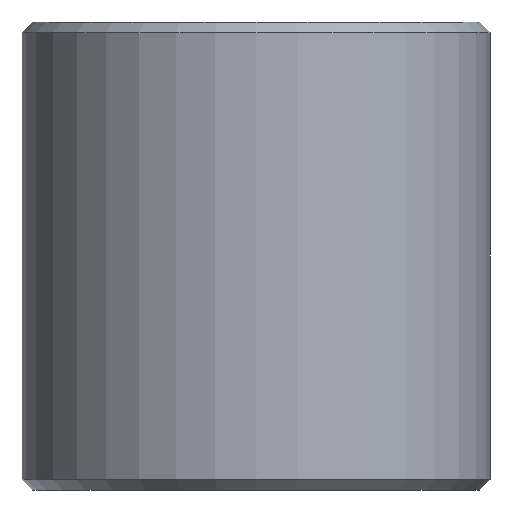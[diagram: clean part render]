
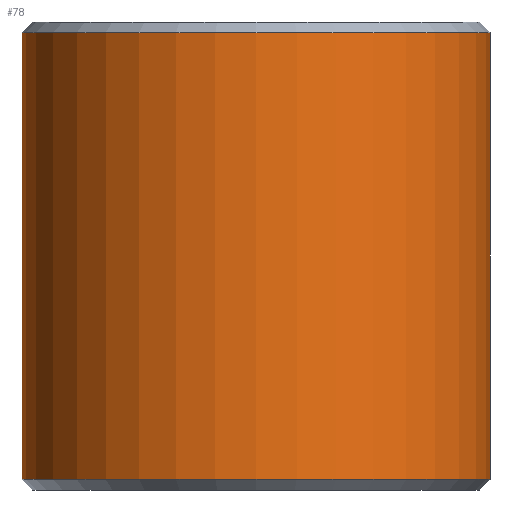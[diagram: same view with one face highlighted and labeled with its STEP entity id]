
A CAD part, front view. The second image highlights one B-rep face of the part: STEP entity #78.
In plain terms, the highlighted cylindrical face has radius 22 mm (diameter 44 mm), a full revolution.
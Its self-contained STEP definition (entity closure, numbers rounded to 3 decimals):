
#78=ADVANCED_FACE('',(#91,#92),#93,.T.);
#91=FACE_OUTER_BOUND('',#109,.T.);
#92=FACE_OUTER_BOUND('',#110,.T.);
#93=CYLINDRICAL_SURFACE('',#111,22.0);
#109=EDGE_LOOP('',(#133));
#110=EDGE_LOOP('',(#134));
#111=AXIS2_PLACEMENT_3D('',#135,#136,#137);
#133=ORIENTED_EDGE('',*,*,#152,.T.);
#134=ORIENTED_EDGE('',*,*,#153,.T.);
#135=CARTESIAN_POINT('',(0.0,0.0,22.0));
#136=DIRECTION('',(-0.0,-0.0,1.0));
#137=DIRECTION('',(-1.0,0.0,0.0));
#152=EDGE_CURVE('',#162,#162,#163,.F.);
#153=EDGE_CURVE('',#164,#164,#165,.T.);
#162=VERTEX_POINT('',#174);
#163=CIRCLE('',#175,22.0);
#164=VERTEX_POINT('',#176);
#165=CIRCLE('',#177,22.0);
#174=CARTESIAN_POINT('',(22.0,0.,21.0));
#175=AXIS2_PLACEMENT_3D('',#190,#191,#192);
#176=CARTESIAN_POINT('',(22.0,0.0,-21.0));
#177=AXIS2_PLACEMENT_3D('',#193,#194,#195);
#190=CARTESIAN_POINT('',(0.0,0.0,21.0));
#191=DIRECTION('',(0.0,0.0,1.0));
#192=DIRECTION('',(1.0,0.0,0.0));
#193=CARTESIAN_POINT('',(0.0,0.0,-21.0));
#194=DIRECTION('',(0.0,0.0,1.0));
#195=DIRECTION('',(1.0,0.0,0.0));
